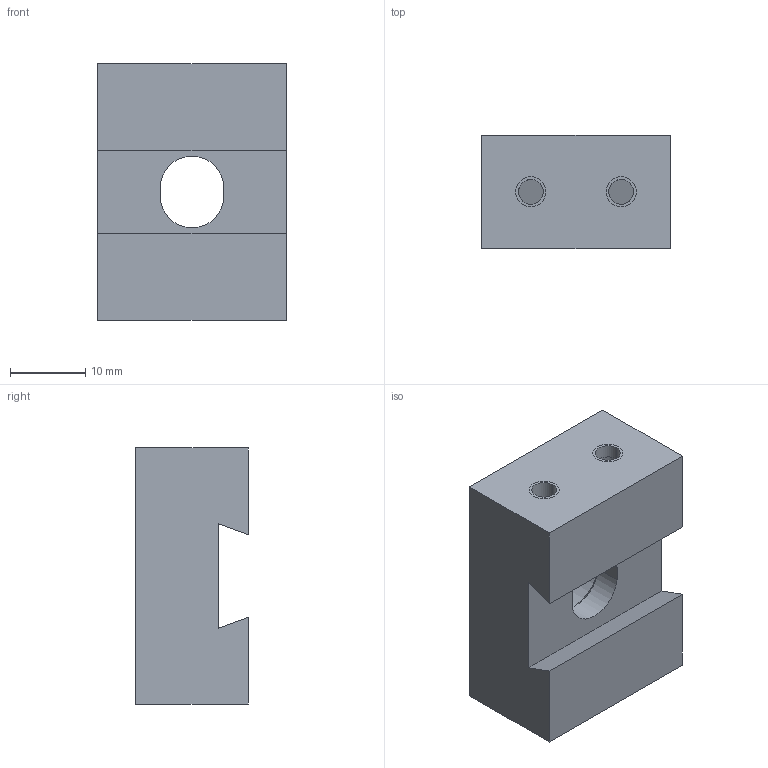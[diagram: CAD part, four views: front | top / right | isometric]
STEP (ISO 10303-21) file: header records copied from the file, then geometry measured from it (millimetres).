
FILE_DESCRIPTION((''),'2;1');
FILE_NAME('FG_WH_WEDCL_0STJ1NP001','2026-06-04T16:17:48',('Admin'),(''),'CREO PARAMETRIC BY PTC INC, 2025010','CREO PARAMETRIC BY PTC INC, 2025010','');
FILE_SCHEMA(('CONFIG_CONTROL_DESIGN'));
Length unit declared in the file: metre
Products named in the file (1): FG_WH_WEDCL_0STJ1NP001
Bounding box: 25 x 15 x 34 mm (x, y, z)
Volume: 9926.8 mm3; surface area: 4361 mm2
Topology: 1 solids, 5 shells, 51 faces, 126 edges, 84 vertices
Faces by surface type: plane 27, cylinder 20, cone 4
Entity records: 2167 total; most frequent: CARTESIAN_POINT 932, DIRECTION 240, ORIENTED_EDGE 228, EDGE_CURVE 126, AXIS2_PLACEMENT_3D 86, VERTEX_POINT 84, VECTOR 68, LINE 68
